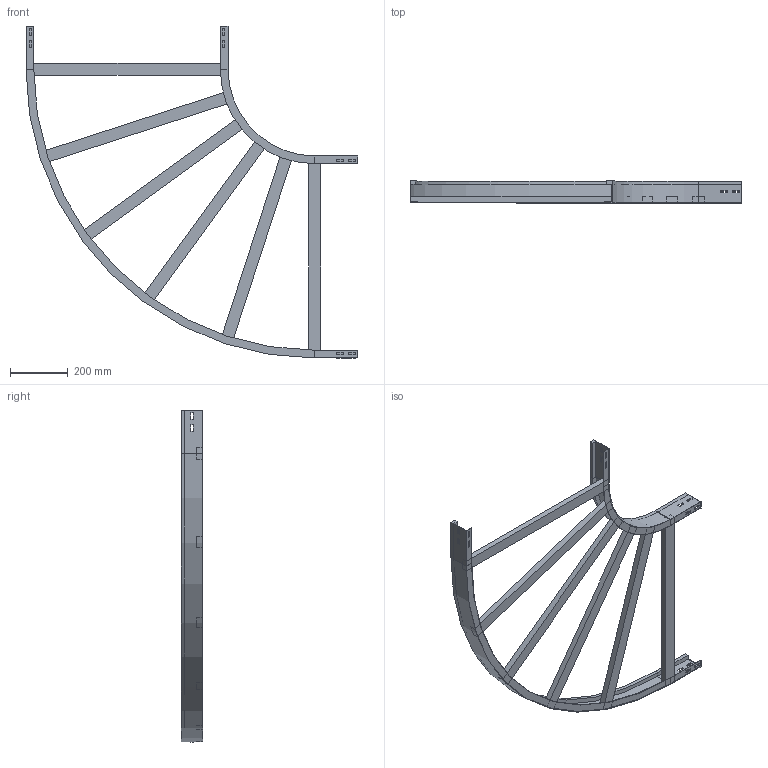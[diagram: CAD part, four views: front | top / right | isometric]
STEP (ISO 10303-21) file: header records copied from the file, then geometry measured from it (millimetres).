
FILE_DESCRIPTION (( 'STEP AP214' ), '1' );
FILE_NAME ('A2_10B3C700.step', '2025-02-21T15:26:35', ( '' ), ( '' ), 'SwSTEP 2.0', 'SolidWorks 2023', '' );
FILE_SCHEMA (( 'AUTOMOTIVE_DESIGN' ));
Length unit declared in the file: millimetre
Products named in the file (4): A2_LONGH.ESTERNO 90°_H75_R300+700; TRAVERSINO_700; A2_10B3C700; A2_LONGH.INTERNO 90°_H75_R300
Assembly tree (8 placements, depth 2):
  A2_10B3C700
    A2_LONGH.INTERNO 90°_H75_R300
    A2_LONGH.ESTERNO 90°_H75_R300+700
    TRAVERSINO_700  x6
Bounding box: 1150 x 75 x 1150 mm (x, y, z)
Volume: 4413309.8 mm3; surface area: 1137032.3 mm2
Topology: 8 solids, 8 shells, 152 faces, 376 edges, 240 vertices
Faces by surface type: plane 144, cylinder 8
Entity records: 3845 total; most frequent: CARTESIAN_POINT 649, ORIENTED_EDGE 632, DIRECTION 598, EDGE_CURVE 316, VECTOR 300, LINE 300, VERTEX_POINT 200, EDGE_LOOP 154
